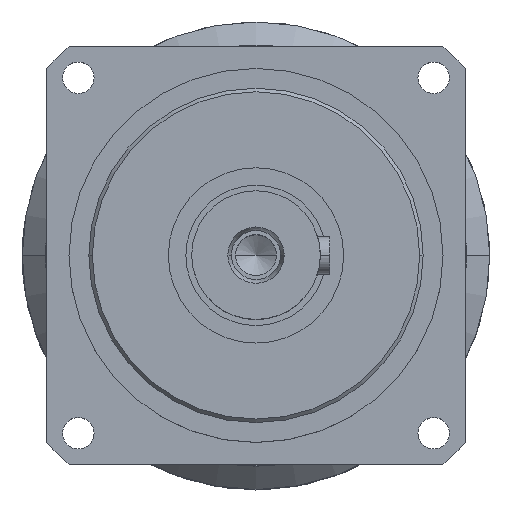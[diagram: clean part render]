
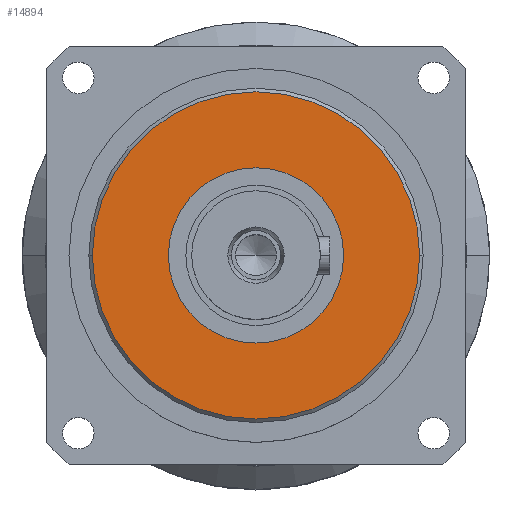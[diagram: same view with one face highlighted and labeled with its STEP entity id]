
A CAD part, top view. The second image highlights one B-rep face of the part: STEP entity #14894.
In plain terms, the highlighted planar face has unit normal (0, 0, 1).
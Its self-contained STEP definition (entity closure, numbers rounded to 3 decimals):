
#552 = PLANE ( 'NONE',  #1212 ) ;
#1212 = AXIS2_PLACEMENT_3D ( 'NONE', #20134, #22945, #6235 ) ;
#2034 = DIRECTION ( 'NONE',  ( 0., 0., 1. ) ) ;
#3670 = CARTESIAN_POINT ( 'NONE',  ( 37.5, 0., 0. ) ) ;
#4169 = AXIS2_PLACEMENT_3D ( 'NONE', #33255, #16454, #36056 ) ;
#4419 = CIRCLE ( 'NONE', #20855, 37.5 ) ;
#6235 = DIRECTION ( 'NONE',  ( -1., 0., 0. ) ) ;
#7375 = VERTEX_POINT ( 'NONE', #3670 ) ;
#12891 = DIRECTION ( 'NONE',  ( 0., 0., 1. ) ) ;
#13278 = CARTESIAN_POINT ( 'NONE',  ( -37.5, 0., 0. ) ) ;
#13750 = CIRCLE ( 'NONE', #26385, 37.5 ) ;
#13889 = VERTEX_POINT ( 'NONE', #17079 ) ;
#14321 = ORIENTED_EDGE ( 'NONE', *, *, #35907, .F. ) ;
#14894 = ADVANCED_FACE ( 'NONE', ( #29777, #32409 ), #552, .F. ) ;
#15468 = CARTESIAN_POINT ( 'NONE',  ( 0., 0., 0. ) ) ;
#15792 = VERTEX_POINT ( 'NONE', #13278 ) ;
#16454 = DIRECTION ( 'NONE',  ( 0., 0., -1. ) ) ;
#17079 = CARTESIAN_POINT ( 'NONE',  ( -70., 0., 0. ) ) ;
#17267 = CIRCLE ( 'NONE', #4169, 70. ) ;
#17755 = EDGE_CURVE ( 'NONE', #15792, #7375, #13750, .T. ) ;
#18055 = EDGE_CURVE ( 'NONE', #24751, #13889, #19828, .T. ) ;
#18276 = DIRECTION ( 'NONE',  ( -1., 0., 0. ) ) ;
#18800 = CARTESIAN_POINT ( 'NONE',  ( 0., 0., 0. ) ) ;
#19828 = CIRCLE ( 'NONE', #27587, 70. ) ;
#20134 = CARTESIAN_POINT ( 'NONE',  ( 0., 70., 0. ) ) ;
#20554 = CARTESIAN_POINT ( 'NONE',  ( 70., 0., 0. ) ) ;
#20855 = AXIS2_PLACEMENT_3D ( 'NONE', #29676, #12891, #32492 ) ;
#21365 = ORIENTED_EDGE ( 'NONE', *, *, #18055, .F. ) ;
#21576 = DIRECTION ( 'NONE',  ( 1., 0., 0. ) ) ;
#22945 = DIRECTION ( 'NONE',  ( 0., 0., -1. ) ) ;
#24751 = VERTEX_POINT ( 'NONE', #20554 ) ;
#24816 = EDGE_LOOP ( 'NONE', ( #32240, #21365 ) ) ;
#26385 = AXIS2_PLACEMENT_3D ( 'NONE', #18800, #2034, #21576 ) ;
#26732 = ORIENTED_EDGE ( 'NONE', *, *, #17755, .F. ) ;
#27587 = AXIS2_PLACEMENT_3D ( 'NONE', #15468, #35099, #18276 ) ;
#29676 = CARTESIAN_POINT ( 'NONE',  ( 0., 0., 0. ) ) ;
#29777 = FACE_OUTER_BOUND ( 'NONE', #24816, .T. ) ;
#31962 = EDGE_CURVE ( 'NONE', #13889, #24751, #17267, .T. ) ;
#32240 = ORIENTED_EDGE ( 'NONE', *, *, #31962, .F. ) ;
#32409 = FACE_BOUND ( 'NONE', #32464, .T. ) ;
#32464 = EDGE_LOOP ( 'NONE', ( #14321, #26732 ) ) ;
#32492 = DIRECTION ( 'NONE',  ( 1., 0., 0. ) ) ;
#33255 = CARTESIAN_POINT ( 'NONE',  ( 0., 0., 0. ) ) ;
#35099 = DIRECTION ( 'NONE',  ( 0., 0., -1. ) ) ;
#35907 = EDGE_CURVE ( 'NONE', #7375, #15792, #4419, .T. ) ;
#36056 = DIRECTION ( 'NONE',  ( -1., 0., 0. ) ) ;
